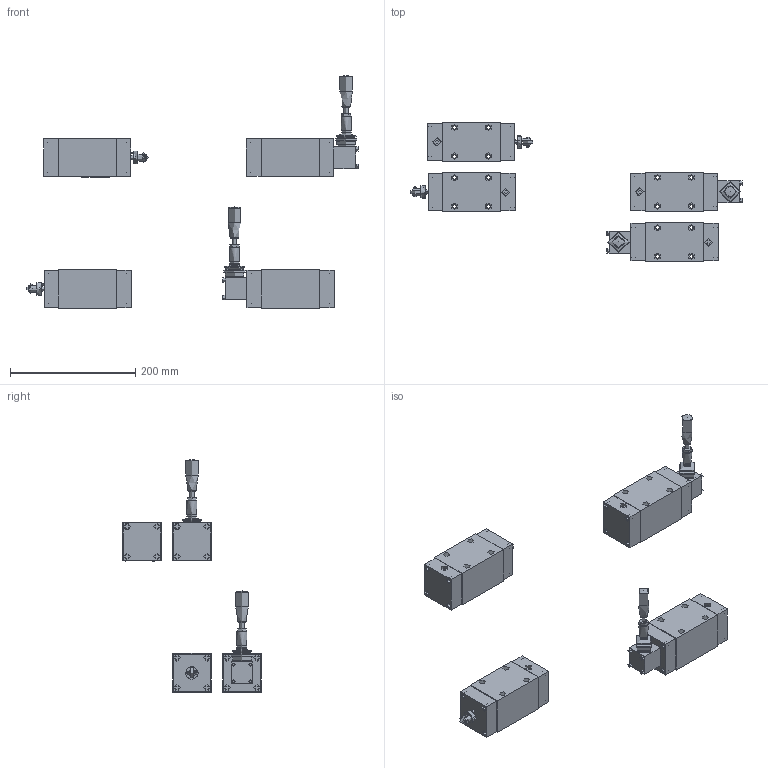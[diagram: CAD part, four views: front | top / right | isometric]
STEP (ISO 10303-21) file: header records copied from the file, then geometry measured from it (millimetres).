
FILE_DESCRIPTION(('Bauteilbeschreibung','HiCAD-Model','HiCAD-STEP-TRANSLATION','Bauteilbeschreibung'),'2;1');
FILE_NAME('D:/A_4_10.STP','2006-08-07T15:31:37+00:00',('Konstrukteur'),('Konstrukteur Firma GmbH'),'HiCAD3 V1210 STEP 1.6.2005','HiCAD3 V1210','confidential');
FILE_SCHEMA(('AUTOMOTIVE_DESIGN { 1 2 10303 214 0 1 1 1 }'));
Length unit declared in the file: millimetre
Products named in the file (103): A_4_10; AH4_10_A; AC3A47AF; A205B8BF; A937DB5C; A937DB5C0; IN6KTM6; IN6KTM60; IN6KTM61; IN6KTM62; IN6KTM63; BE02C73E; BE02C73E0; IN6KTM64; IN6KTM65; IN6KTM66; IN6KTM67; IN6KTM68; A6B68E08; A6B68E080; FALTENBA; GRIFF; IN6KTM4; IN6KTM40; IN6KTM41; IN6KTM42; IN6KTM43; AT4_10_A; AF2F75FD; A205B8BF0; A937DB5C1; A937DB5C2; IN6KTM69; IN6KTM610; IN6KTM611; IN6KTM612; IN6KTM613; BE02C73E1; BE02C73E2; IN6KTM614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
Assembly tree (102 placements, depth 6):
  A_4_10
    AH4_10_A
      AC3A47AF
        A205B8BF
        A937DB5C
        A937DB5C0
          IN6KTM6
            IN6KTM60
            IN6KTM61
            IN6KTM62
            IN6KTM63
        BE02C73E
        BE02C73E0
          IN6KTM64
            IN6KTM65
            IN6KTM66
            IN6KTM67
            IN6KTM68
        A6B68E08
        A6B68E080
          FALTENBA
          GRIFF
        IN6KTM4
          IN6KTM40
          IN6KTM41
          IN6KTM42
          IN6KTM43
    AT4_10_A
      AF2F75FD
        A205B8BF0
        A937DB5C1
        A937DB5C2
          IN6KTM69
            IN6KTM610
            IN6KTM611
            IN6KTM612
            IN6KTM613
        BE02C73E1
        BE02C73E2
          IN6KTM614
            IN6KTM615
            IN6KTM616
            IN6KTM617
            IN6KTM618
        C31004E9
        C31004E90
          RING
          STIFT
          ROLLE
          KOLBEN
          STIFT0
          STIFT1
    AT40100A
      ABA1B697
        A205B8BF1
        A937DB5C3
        A937DB5C4
          IN6KTM619
            IN6KTM620
            IN6KTM621
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Bounding box: 531.2 x 222 x 372 mm (x, y, z)
Topology: 72 solids, 74 shells, 974 faces, 2063 edges, 1407 vertices
Faces by surface type: plane 664, cylinder 272, cone 26, torus 10, sphere 2
Full cylindrical faces by diameter (mm): 2.99 x4, 3.2 x10, 4 x10, 4.5 x8, 6 x34, 6.5 x48, 7 x12, 7.12 x2, 10 x32, 10.5 x48, 12 x4, 13 x4, 14 x2, 14.5 x2, 16 x6, 16.9 x20, 20 x4, 27.5 x2, 29.5 x4
Entity records: 48780 total; most frequent: CARTESIAN_POINT 10342, DIRECTION 4500, ORIENTED_EDGE 3272, COLOUR_RGB 2682, PRESENTATION_STYLE_ASSIGNMENT 2682, OVER_RIDING_STYLED_ITEM 2610, AXIS2_PLACEMENT_3D 1738, CURVE_STYLE 1636
